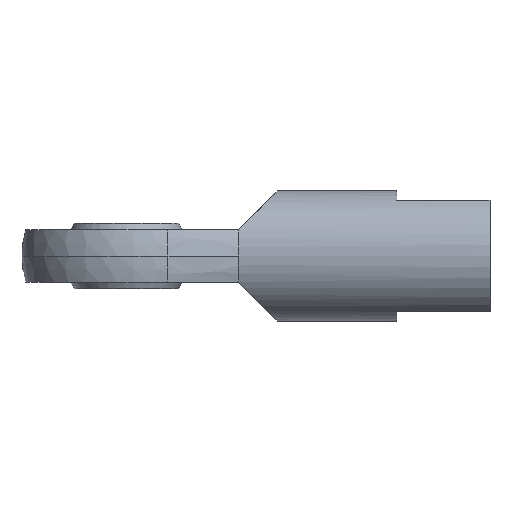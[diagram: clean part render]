
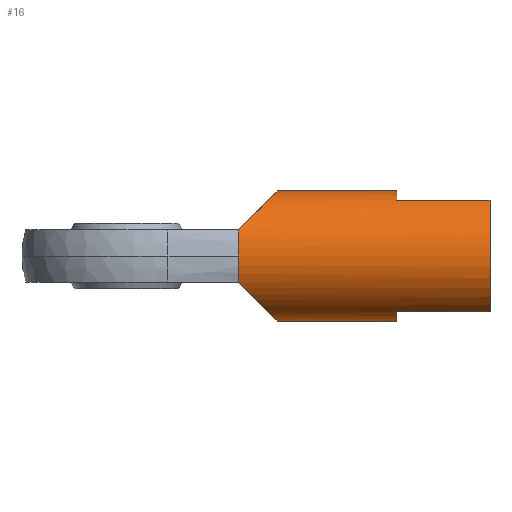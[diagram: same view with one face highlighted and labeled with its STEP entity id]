
A CAD part, front view. The second image highlights one B-rep face of the part: STEP entity #16.
In plain terms, the highlighted cylindrical face has radius 35 mm (diameter 70 mm), a partial arc.
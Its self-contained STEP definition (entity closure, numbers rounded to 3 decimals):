
#1 = ORIENTED_EDGE ( 'NONE', *, *, #1101, .F. ) ;
#16 = ADVANCED_FACE ( 'NONE', ( #1379 ), #1380, .T. ) ;
#31 = EDGE_LOOP ( 'NONE', ( #1, #72, #69, #68, #86, #83, #82, #1237, #1164, #1162, #1139 ) ) ;
#35 = VERTEX_POINT ( 'NONE', #1368 ) ;
#36 = EDGE_CURVE ( 'NONE', #35, #42, #1364, .T. ) ;
#42 = VERTEX_POINT ( 'NONE', #1404 ) ;
#68 = ORIENTED_EDGE ( 'NONE', *, *, #1352, .T. ) ;
#69 = ORIENTED_EDGE ( 'NONE', *, *, #102, .T. ) ;
#72 = ORIENTED_EDGE ( 'NONE', *, *, #1108, .F. ) ;
#81 = EDGE_CURVE ( 'NONE', #1109, #42, #821, .T. ) ;
#82 = ORIENTED_EDGE ( 'NONE', *, *, #81, .F. ) ;
#83 = ORIENTED_EDGE ( 'NONE', *, *, #36, .T. ) ;
#86 = ORIENTED_EDGE ( 'NONE', *, *, #87, .F. ) ;
#87 = EDGE_CURVE ( 'NONE', #35, #1327, #822, .T. ) ;
#102 = EDGE_CURVE ( 'NONE', #1274, #1349, #991, .T. ) ;
#316 = CARTESIAN_POINT ( 'NONE',  ( 195., -18.028, 30. ) ) ;
#336 = DIRECTION ( 'NONE',  ( -1., 0., 0. ) ) ;
#337 = VECTOR ( 'NONE', #336, 1000. ) ;
#338 = CARTESIAN_POINT ( 'NONE',  ( 60., -18.028, -30. ) ) ;
#379 = LINE ( 'NONE', #338, #337 ) ;
#414 = CARTESIAN_POINT ( 'NONE',  ( 60., -32.078, 14. ) ) ;
#533 = CARTESIAN_POINT ( 'NONE',  ( 60., -32.078, -14. ) ) ;
#557 = CARTESIAN_POINT ( 'NONE',  ( 60., 0., 0. ) ) ;
#575 = CARTESIAN_POINT ( 'NONE',  ( 60., -35., 0. ) ) ;
#586 = DIRECTION ( 'NONE',  ( 0., 1., 0. ) ) ;
#587 = DIRECTION ( 'NONE',  ( 1., 0., 0. ) ) ;
#588 = AXIS2_PLACEMENT_3D ( 'NONE', #557, #587, #586 ) ;
#593 = CIRCLE ( 'NONE', #588, 35. ) ;
#653 = DIRECTION ( 'NONE',  ( 0., 0., -1. ) ) ;
#654 = DIRECTION ( 'NONE',  ( 1., 0., 0. ) ) ;
#655 = CARTESIAN_POINT ( 'NONE',  ( 195., 0., 0. ) ) ;
#656 = AXIS2_PLACEMENT_3D ( 'NONE', #655, #654, #653 ) ;
#657 = CIRCLE ( 'NONE', #656, 35. ) ;
#658 = LINE ( 'NONE', #699, #661 ) ;
#659 = CARTESIAN_POINT ( 'NONE',  ( 145., -18.028, 30. ) ) ;
#661 = VECTOR ( 'NONE', #688, 1000. ) ;
#671 = AXIS2_PLACEMENT_3D ( 'NONE', #702, #694, #693 ) ;
#672 = CIRCLE ( 'NONE', #671, 35. ) ;
#680 = CARTESIAN_POINT ( 'NONE',  ( 195., -18.028, -30. ) ) ;
#688 = DIRECTION ( 'NONE',  ( 1., 0., 0. ) ) ;
#693 = DIRECTION ( 'NONE',  ( 0., 0., 1. ) ) ;
#694 = DIRECTION ( 'NONE',  ( 1., 0., 0. ) ) ;
#699 = CARTESIAN_POINT ( 'NONE',  ( 60., -18.028, 30. ) ) ;
#702 = CARTESIAN_POINT ( 'NONE',  ( 145., 0., 0. ) ) ;
#806 = DIRECTION ( 'NONE',  ( 0., 0., 1. ) ) ;
#808 = CARTESIAN_POINT ( 'NONE',  ( 60., -32.078, -14. ) ) ;
#809 = CARTESIAN_POINT ( 'NONE',  ( 73.145, -26.341, -27.145 ) ) ;
#810 = CARTESIAN_POINT ( 'NONE',  ( 81., -14.342, -35. ) ) ;
#818 = DIRECTION ( 'NONE',  ( 1., 0., 0. ) ) ;
#819 = CARTESIAN_POINT ( 'NONE',  ( 145., 0., 0. ) ) ;
#820 = AXIS2_PLACEMENT_3D ( 'NONE', #819, #818, #806 ) ;
#821 = CIRCLE ( 'NONE', #820, 35. ) ;
#822 =( BOUNDED_CURVE ( )  B_SPLINE_CURVE ( 3, ( #823, #810, #809, #808 ),
 .UNSPECIFIED., .F., .F. ) 
 B_SPLINE_CURVE_WITH_KNOTS ( ( 4, 4 ),
 ( 0., 1.159 ),
 .UNSPECIFIED. ) 
 CURVE ( )  GEOMETRIC_REPRESENTATION_ITEM ( )  RATIONAL_B_SPLINE_CURVE ( ( 1., 0.891, 0.891, 1. ) ) 
 REPRESENTATION_ITEM ( '' )  );
#823 = CARTESIAN_POINT ( 'NONE',  ( 81., 0., -35. ) ) ;
#871 =( BOUNDED_CURVE ( )  B_SPLINE_CURVE ( 3, ( #954, #956, #955, #892 ),
 .UNSPECIFIED., .F., .T. ) 
 B_SPLINE_CURVE_WITH_KNOTS ( ( 4, 4 ),
 ( 5.124, 6.283 ),
 .UNSPECIFIED. ) 
 CURVE ( )  GEOMETRIC_REPRESENTATION_ITEM ( )  RATIONAL_B_SPLINE_CURVE ( ( 1., 0.891, 0.891, 1. ) ) 
 REPRESENTATION_ITEM ( '' )  );
#880 = DIRECTION ( 'NONE',  ( 1., 0., 0. ) ) ;
#881 = VECTOR ( 'NONE', #880, 1000. ) ;
#882 = CARTESIAN_POINT ( 'NONE',  ( 60., 0., 35. ) ) ;
#884 = LINE ( 'NONE', #882, #881 ) ;
#885 = CARTESIAN_POINT ( 'NONE',  ( 145., 0., 35. ) ) ;
#892 = CARTESIAN_POINT ( 'NONE',  ( 81., 0., 35. ) ) ;
#954 = CARTESIAN_POINT ( 'NONE',  ( 60., -32.078, 14. ) ) ;
#955 = CARTESIAN_POINT ( 'NONE',  ( 81., -14.342, 35. ) ) ;
#956 = CARTESIAN_POINT ( 'NONE',  ( 73.145, -26.341, 27.145 ) ) ;
#957 = CARTESIAN_POINT ( 'NONE',  ( 145., -18.028, -30. ) ) ;
#971 = CARTESIAN_POINT ( 'NONE',  ( 81., 0., 35. ) ) ;
#986 = CARTESIAN_POINT ( 'NONE',  ( 60., 0., 0. ) ) ;
#989 = DIRECTION ( 'NONE',  ( 0., 1., 0. ) ) ;
#991 = CIRCLE ( 'NONE', #995, 35. ) ;
#995 = AXIS2_PLACEMENT_3D ( 'NONE', #986, #996, #989 ) ;
#996 = DIRECTION ( 'NONE',  ( 1., 0., 0. ) ) ;
#1101 = EDGE_CURVE ( 'NONE', #1111, #1102, #884, .T. ) ;
#1102 = VERTEX_POINT ( 'NONE', #885 ) ;
#1108 = EDGE_CURVE ( 'NONE', #1274, #1111, #871, .T. ) ;
#1109 = VERTEX_POINT ( 'NONE', #957 ) ;
#1111 = VERTEX_POINT ( 'NONE', #971 ) ;
#1138 = EDGE_CURVE ( 'NONE', #1146, #1197, #658, .T. ) ;
#1139 = ORIENTED_EDGE ( 'NONE', *, *, #1143, .F. ) ;
#1143 = EDGE_CURVE ( 'NONE', #1102, #1146, #672, .T. ) ;
#1146 = VERTEX_POINT ( 'NONE', #659 ) ;
#1159 = VERTEX_POINT ( 'NONE', #680 ) ;
#1162 = ORIENTED_EDGE ( 'NONE', *, *, #1138, .F. ) ;
#1163 = EDGE_CURVE ( 'NONE', #1197, #1159, #657, .T. ) ;
#1164 = ORIENTED_EDGE ( 'NONE', *, *, #1163, .F. ) ;
#1197 = VERTEX_POINT ( 'NONE', #316 ) ;
#1237 = ORIENTED_EDGE ( 'NONE', *, *, #1239, .F. ) ;
#1239 = EDGE_CURVE ( 'NONE', #1159, #1109, #379, .T. ) ;
#1274 = VERTEX_POINT ( 'NONE', #414 ) ;
#1327 = VERTEX_POINT ( 'NONE', #533 ) ;
#1349 = VERTEX_POINT ( 'NONE', #575 ) ;
#1352 = EDGE_CURVE ( 'NONE', #1349, #1327, #593, .T. ) ;
#1362 = CARTESIAN_POINT ( 'NONE',  ( 60., 0., -35. ) ) ;
#1363 = VECTOR ( 'NONE', #1366, 1000. ) ;
#1364 = LINE ( 'NONE', #1362, #1363 ) ;
#1366 = DIRECTION ( 'NONE',  ( 1., 0., 0. ) ) ;
#1368 = CARTESIAN_POINT ( 'NONE',  ( 81., 0., -35. ) ) ;
#1372 = DIRECTION ( 'NONE',  ( 1., 0., 0. ) ) ;
#1373 = DIRECTION ( 'NONE',  ( 0., 0., -1. ) ) ;
#1374 = AXIS2_PLACEMENT_3D ( 'NONE', #1378, #1372, #1373 ) ;
#1378 = CARTESIAN_POINT ( 'NONE',  ( 60., 0., 0. ) ) ;
#1379 = FACE_OUTER_BOUND ( 'NONE', #31, .T. ) ;
#1380 = CYLINDRICAL_SURFACE ( 'NONE', #1374, 35. ) ;
#1404 = CARTESIAN_POINT ( 'NONE',  ( 145., 0., -35. ) ) ;
